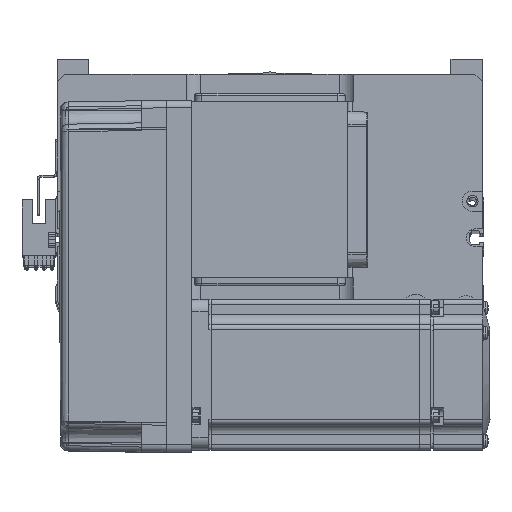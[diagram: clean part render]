
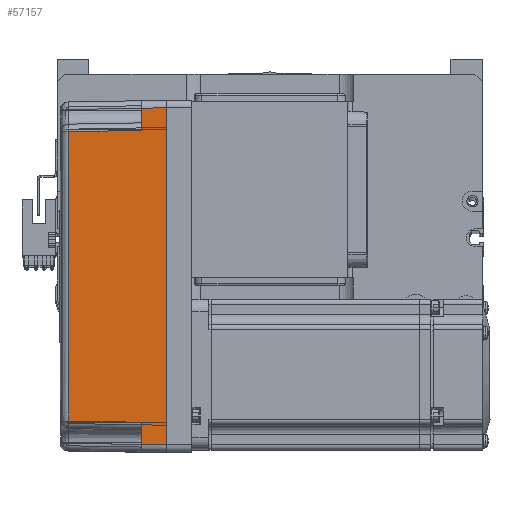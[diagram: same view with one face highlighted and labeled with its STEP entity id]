
A CAD part, top view. The second image highlights one B-rep face of the part: STEP entity #57157.
In plain terms, the highlighted planar face has unit normal (-0.018, 0, 1) as drawn and (0, -1, 0.017) by its records, which use the part's own axes.
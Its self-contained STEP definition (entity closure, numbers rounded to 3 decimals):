
#597 = CARTESIAN_POINT ( 'NONE',  ( 67., -36., 0. ) ) ;
#1434 = LINE ( 'NONE', #58238, #15731 ) ;
#2234 = PLANE ( 'NONE',  #49483 ) ;
#3092 = EDGE_CURVE ( 'NONE', #40991, #35782, #1434, .T. ) ;
#3628 = EDGE_CURVE ( 'NONE', #40991, #26710, #46513, .T. ) ;
#4071 = ORIENTED_EDGE ( 'NONE', *, *, #38046, .F. ) ;
#5379 = CARTESIAN_POINT ( 'NONE',  ( 67., -36., 0. ) ) ;
#5937 = VECTOR ( 'NONE', #40716, 1000. ) ;
#7159 = CARTESIAN_POINT ( 'NONE',  ( -66.959, -35.958, 2.39 ) ) ;
#8290 = CARTESIAN_POINT ( 'NONE',  ( 57.495, -35.32, 38.985 ) ) ;
#9589 = VECTOR ( 'NONE', #38156, 1000. ) ;
#9687 = CARTESIAN_POINT ( 'NONE',  ( -57.495, -35.32, 38.985 ) ) ;
#10038 = EDGE_LOOP ( 'NONE', ( #43669, #24352, #10552, #35977, #45330, #30369, #4071, #50779 ) ) ;
#10552 = ORIENTED_EDGE ( 'NONE', *, *, #26167, .T. ) ;
#11005 = CARTESIAN_POINT ( 'NONE',  ( 66.826, -35.825, 10. ) ) ;
#11128 = LINE ( 'NONE', #37955, #9589 ) ;
#11412 = CARTESIAN_POINT ( 'NONE',  ( 58., -35.825, 10. ) ) ;
#15731 = VECTOR ( 'NONE', #15993, 1000. ) ;
#15993 = DIRECTION ( 'NONE',  ( -1., 0., 0. ) ) ;
#17750 = CARTESIAN_POINT ( 'NONE',  ( 70., -35.825, 10. ) ) ;
#22715 = DIRECTION ( 'NONE',  ( -1., 0., 0. ) ) ;
#23083 = EDGE_CURVE ( 'NONE', #26710, #41482, #47246, .T. ) ;
#24276 = LINE ( 'NONE', #9687, #27306 ) ;
#24352 = ORIENTED_EDGE ( 'NONE', *, *, #23083, .T. ) ;
#26167 = EDGE_CURVE ( 'NONE', #41482, #52151, #11128, .T. ) ;
#26710 = VERTEX_POINT ( 'NONE', #11005 ) ;
#27306 = VECTOR ( 'NONE', #42844, 1000. ) ;
#28820 = EDGE_CURVE ( 'NONE', #34024, #41804, #24276, .T. ) ;
#30369 = ORIENTED_EDGE ( 'NONE', *, *, #34332, .T. ) ;
#31725 = DIRECTION ( 'NONE',  ( -1., 0., 0. ) ) ;
#33455 = CARTESIAN_POINT ( 'NONE',  ( 19.165, -35.316, 39.181 ) ) ;
#33888 = CARTESIAN_POINT ( 'NONE',  ( -66.826, -35.825, 10. ) ) ;
#34024 = VERTEX_POINT ( 'NONE', #34104 ) ;
#34104 = CARTESIAN_POINT ( 'NONE',  ( -57.495, -35.32, 38.985 ) ) ;
#34332 = EDGE_CURVE ( 'NONE', #41804, #51826, #56853, .T. ) ;
#34477 = CARTESIAN_POINT ( 'NONE',  ( -57.495, -35.32, 38.985 ) ) ;
#35396 = DIRECTION ( 'NONE',  ( 0., -0.017, -1. ) ) ;
#35782 = VERTEX_POINT ( 'NONE', #51855 ) ;
#35837 = CARTESIAN_POINT ( 'NONE',  ( 70., -36., 0. ) ) ;
#35977 = ORIENTED_EDGE ( 'NONE', *, *, #52746, .T. ) ;
#37955 = CARTESIAN_POINT ( 'NONE',  ( 58., -35.825, 10. ) ) ;
#38046 = EDGE_CURVE ( 'NONE', #35782, #51826, #45766, .T. ) ;
#38156 = DIRECTION ( 'NONE',  ( -0.017, 0.017, 1. ) ) ;
#39534 = FACE_OUTER_BOUND ( 'NONE', #10038, .T. ) ;
#40664 = DIRECTION ( 'NONE',  ( 0., -1., 0.017 ) ) ;
#40716 = DIRECTION ( 'NONE',  ( 0.017, 0.017, 1. ) ) ;
#40991 = VERTEX_POINT ( 'NONE', #5379 ) ;
#41482 = VERTEX_POINT ( 'NONE', #11412 ) ;
#41804 = VERTEX_POINT ( 'NONE', #52087 ) ;
#42727 = VECTOR ( 'NONE', #31725, 1000. ) ;
#42844 = DIRECTION ( 'NONE',  ( -0.017, -0.017, -1. ) ) ;
#43669 = ORIENTED_EDGE ( 'NONE', *, *, #3628, .T. ) ;
#44034 = VECTOR ( 'NONE', #22715, 1000. ) ;
#45330 = ORIENTED_EDGE ( 'NONE', *, *, #28820, .T. ) ;
#45766 = LINE ( 'NONE', #7159, #5937 ) ;
#45836 = CARTESIAN_POINT ( 'NONE',  ( 70., -35.825, 10. ) ) ;
#46513 = LINE ( 'NONE', #597, #55520 ) ;
#47246 = LINE ( 'NONE', #45836, #42727 ) ;
#49483 = AXIS2_PLACEMENT_3D ( 'NONE', #35837, #40664, #35396 ) ;
#49617 = CARTESIAN_POINT ( 'NONE',  ( -19.165, -35.316, 39.181 ) ) ;
#50779 = ORIENTED_EDGE ( 'NONE', *, *, #3092, .F. ) ;
#51826 = VERTEX_POINT ( 'NONE', #33888 ) ;
#51855 = CARTESIAN_POINT ( 'NONE',  ( -67., -36., 0. ) ) ;
#52087 = CARTESIAN_POINT ( 'NONE',  ( -58., -35.825, 10. ) ) ;
#52151 = VERTEX_POINT ( 'NONE', #8290 ) ;
#52746 = EDGE_CURVE ( 'NONE', #52151, #34024, #61335, .T. ) ;
#55520 = VECTOR ( 'NONE', #57539, 1000. ) ;
#56853 = LINE ( 'NONE', #17750, #44034 ) ;
#57157 = ADVANCED_FACE ( 'NONE', ( #39534 ), #2234, .T. ) ;
#57539 = DIRECTION ( 'NONE',  ( -0.017, 0.017, 1. ) ) ;
#58055 = CARTESIAN_POINT ( 'NONE',  ( 57.495, -35.32, 38.985 ) ) ;
#58238 = CARTESIAN_POINT ( 'NONE',  ( 0., -36., 0. ) ) ;
#61335 = B_SPLINE_CURVE_WITH_KNOTS ( 'NONE', 3,
 ( #58055, #33455, #49617, #34477 ),
 .UNSPECIFIED., .F., .F.,
 ( 4, 4 ),
 ( 0., 1. ),
 .UNSPECIFIED. ) ;
